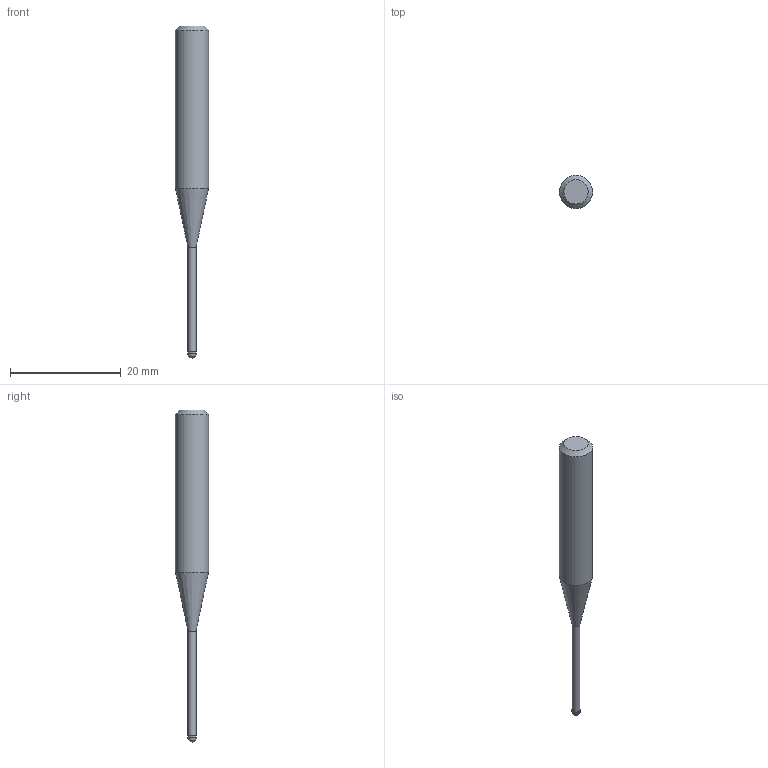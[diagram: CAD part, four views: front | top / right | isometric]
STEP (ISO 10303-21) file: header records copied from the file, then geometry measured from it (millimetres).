
FILE_DESCRIPTION((''),'2;1');
FILE_NAME('C:\Users\nsx150\AppData\Local\Temp\Mastercam 2021\3SYKECWX22\TEMP.step','2021-04-22T10:03:33',(''),(''),'STEP Write','Mastercam 2021 ... CNC Software, Inc.','');
FILE_SCHEMA(('AUTOMOTIVE_DESIGN'));
Length unit declared in the file: millimetre
Products named in the file (1): None
Bounding box: 6 x 6 x 60 mm (x, y, z)
Volume: 986.7 mm3; surface area: 793.6 mm2
Topology: 2 solids, 2 shells, 9 faces, 14 edges, 8 vertices
Faces by surface type: plane 3, cylinder 3, cone 2, sphere 1
Full cylindrical faces by diameter (mm): 1.45 x1, 1.5 x1, 6 x1
Entity records: 211 total; most frequent: DIRECTION 36, CARTESIAN_POINT 25, AXIS2_PLACEMENT_3D 18, ORIENTED_EDGE 14, EDGE_LOOP 14, STYLED_ITEM 12, ADVANCED_FACE 9, FACE_BOUND 8
